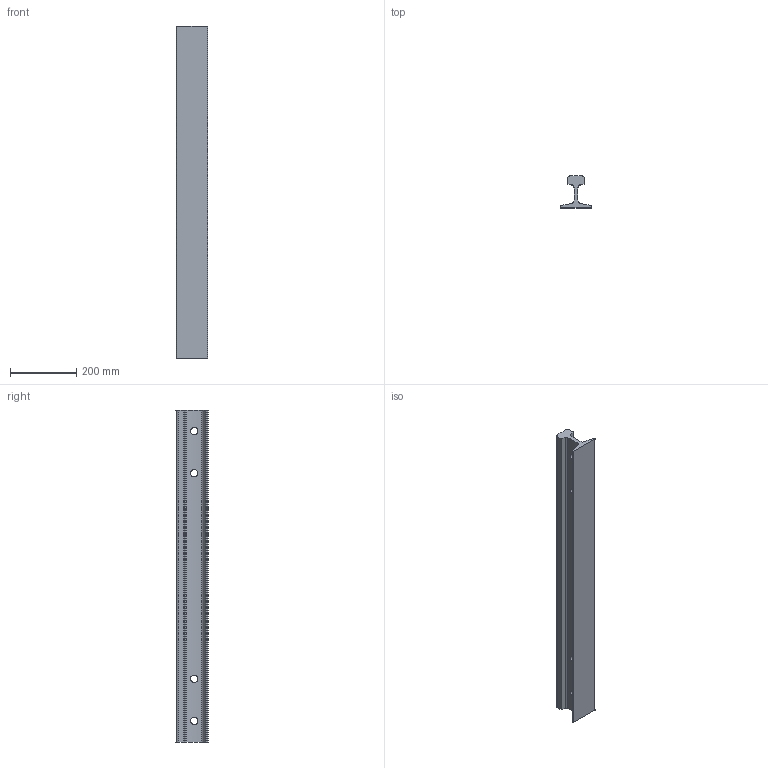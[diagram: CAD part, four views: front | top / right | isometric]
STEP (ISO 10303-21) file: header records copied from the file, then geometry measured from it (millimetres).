
FILE_DESCRIPTION(/* description */ (''),/* implementation_level */ '2;1');
FILE_NAME(/* name */ 'C:\Users\unitec\Documents\Inventor\HP\レール\jis22kg-rail.stp',/* time_stamp */ '2017-01-23T18:07:15+09:00',/* author */ ('unitec'),/* organization */ (''),/* preprocessor_version */ 'ST-DEVELOPER v15.2',/* originating_system */ 'Autodesk Inventor 2014',/* authorisation */ '');
FILE_SCHEMA (('AUTOMOTIVE_DESIGN { 1 0 10303 214 3 1 1 }'));
Length unit declared in the file: millimetre
Products named in the file (1): jis22kg-rail
Bounding box: 93.66 x 96.6 x 1000 mm (x, y, z)
Volume: 2975106.4 mm3; surface area: 422171.5 mm2
Topology: 1 solids, 1 shells, 30 faces, 88 edges, 60 vertices
Faces by surface type: cylinder 19, plane 11
Full cylindrical faces by diameter (mm): 22.22 x4
Entity records: 1243 total; most frequent: CARTESIAN_POINT 431, DIRECTION 164, ORIENTED_EDGE 160, EDGE_CURVE 80, AXIS2_PLACEMENT_3D 61, VERTEX_POINT 56, LINE 42, VECTOR 42
